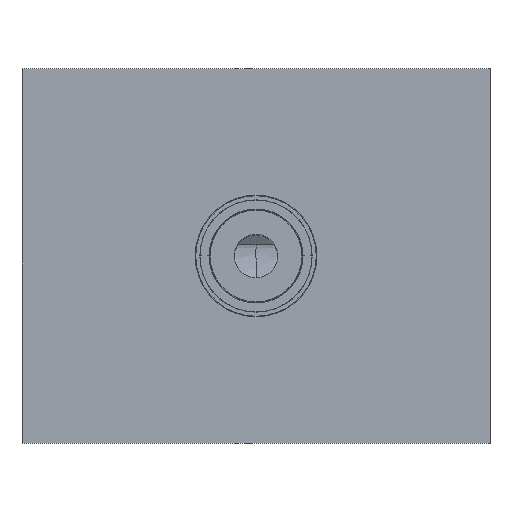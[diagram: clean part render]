
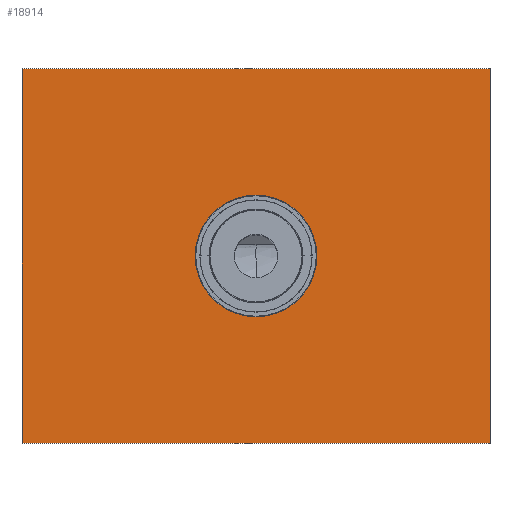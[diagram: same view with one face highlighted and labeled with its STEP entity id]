
A CAD part, top view. The second image highlights one B-rep face of the part: STEP entity #18914.
In plain terms, the highlighted planar face has unit normal (0, 0, 1).
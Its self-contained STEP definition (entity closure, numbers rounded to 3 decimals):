
#2940=DIRECTION('',(0.,1.,0.));
#2941=VECTOR('',#2940,60.);
#2942=CARTESIAN_POINT('',(-37.5,-30.,2.));
#2943=LINE('',#2942,#2941);
#2944=DIRECTION('',(1.,0.,0.));
#2945=VECTOR('',#2944,75.);
#2946=CARTESIAN_POINT('',(-37.5,30.,2.));
#2947=LINE('',#2946,#2945);
#2948=DIRECTION('',(0.,-1.,0.));
#2949=VECTOR('',#2948,60.);
#2950=CARTESIAN_POINT('',(37.5,30.,2.));
#2951=LINE('',#2950,#2949);
#2952=DIRECTION('',(-1.,0.,0.));
#2953=VECTOR('',#2952,75.);
#2954=CARTESIAN_POINT('',(37.5,-30.,2.));
#2955=LINE('',#2954,#2953);
#2956=CARTESIAN_POINT('',(0.,0.,2.));
#2957=DIRECTION('',(0.,0.,-1.));
#2958=DIRECTION('',(0.,1.,0.));
#2959=AXIS2_PLACEMENT_3D('',#2956,#2957,#2958);
#2961=CARTESIAN_POINT('',(0.,0.,2.));
#2962=DIRECTION('',(0.,0.,-1.));
#2963=DIRECTION('',(0.,-1.,0.));
#2964=AXIS2_PLACEMENT_3D('',#2961,#2962,#2963);
#16696=CARTESIAN_POINT('',(0.,9.75,2.));
#16697=CARTESIAN_POINT('',(0.,-9.75,2.));
#16698=VERTEX_POINT('',#16696);
#16699=VERTEX_POINT('',#16697);
#16700=CARTESIAN_POINT('',(-37.5,-30.,2.));
#16701=CARTESIAN_POINT('',(-37.5,30.,2.));
#16702=VERTEX_POINT('',#16700);
#16703=VERTEX_POINT('',#16701);
#16704=CARTESIAN_POINT('',(37.5,30.,2.));
#16705=VERTEX_POINT('',#16704);
#16706=CARTESIAN_POINT('',(37.5,-30.,2.));
#16707=VERTEX_POINT('',#16706);
#18897=CARTESIAN_POINT('',(0.,0.,2.));
#18898=DIRECTION('',(0.,0.,-1.));
#18899=DIRECTION('',(0.,1.,0.));
#18900=AXIS2_PLACEMENT_3D('',#18897,#18898,#18899);
#18901=PLANE('',#18900);
#18902=ORIENTED_EDGE('',*,*,#18822,.T.);
#18903=ORIENTED_EDGE('',*,*,#18838,.T.);
#18904=ORIENTED_EDGE('',*,*,#18878,.T.);
#18905=ORIENTED_EDGE('',*,*,#18891,.T.);
#18906=EDGE_LOOP('',(#18902,#18903,#18904,#18905));
#18907=FACE_OUTER_BOUND('',#18906,.F.);
#18909=ORIENTED_EDGE('',*,*,#18908,.F.);
#18911=ORIENTED_EDGE('',*,*,#18910,.F.);
#18912=EDGE_LOOP('',(#18909,#18911));
#18913=FACE_BOUND('',#18912,.F.);
#18914=ADVANCED_FACE('',(#18907,#18913),#18901,.F.);
#2960=CIRCLE('',#2959,9.75);
#2965=CIRCLE('',#2964,9.75);
#18822=EDGE_CURVE('',#16702,#16703,#2943,.T.);
#18838=EDGE_CURVE('',#16703,#16705,#2947,.T.);
#18878=EDGE_CURVE('',#16705,#16707,#2951,.T.);
#18891=EDGE_CURVE('',#16707,#16702,#2955,.T.);
#18908=EDGE_CURVE('',#16698,#16699,#2960,.T.);
#18910=EDGE_CURVE('',#16699,#16698,#2965,.T.);
